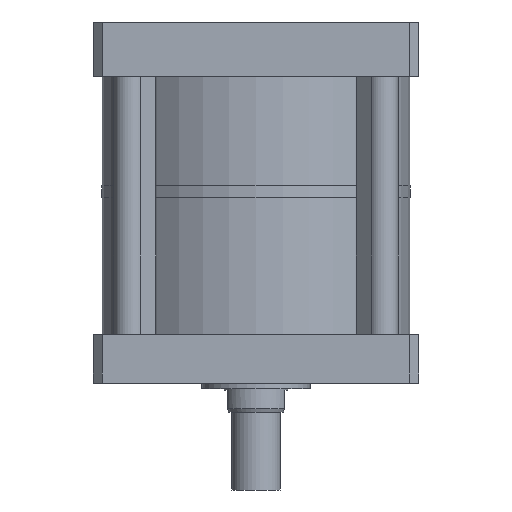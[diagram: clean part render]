
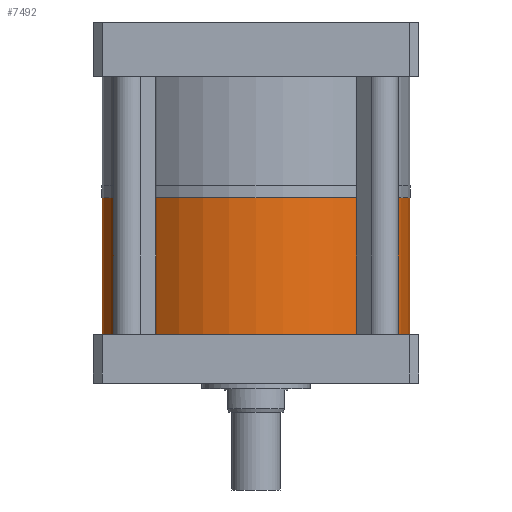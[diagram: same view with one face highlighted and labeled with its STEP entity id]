
A CAD part, front view. The second image highlights one B-rep face of the part: STEP entity #7492.
In plain terms, the highlighted cylindrical face has radius 85 mm (diameter 170 mm), a partial arc.
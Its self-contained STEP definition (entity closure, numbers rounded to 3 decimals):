
#516 = DIRECTION ( 'NONE',  ( 1., 0., 0. ) ) ;
#517 = AXIS2_PLACEMENT_3D ( 'NONE', #1032, #5900, #1719 ) ;
#740 = CYLINDRICAL_SURFACE ( 'NONE', #8388, 85. ) ;
#920 = ORIENTED_EDGE ( 'NONE', *, *, #7314, .T. ) ;
#1032 = CARTESIAN_POINT ( 'NONE',  ( 0., 0., -142.5 ) ) ;
#1164 = CARTESIAN_POINT ( 'NONE',  ( 85., 0., -67. ) ) ;
#1609 = ORIENTED_EDGE ( 'NONE', *, *, #6640, .F. ) ;
#1689 = VECTOR ( 'NONE', #6851, 1000. ) ;
#1719 = DIRECTION ( 'NONE',  ( -1., 0., 0. ) ) ;
#2585 = FACE_OUTER_BOUND ( 'NONE', #3929, .T. ) ;
#2687 = EDGE_CURVE ( 'NONE', #3857, #6035, #4368, .T. ) ;
#2775 = CARTESIAN_POINT ( 'NONE',  ( 85., 0., -142.5 ) ) ;
#3385 = CARTESIAN_POINT ( 'NONE',  ( 0., 0., -67. ) ) ;
#3857 = VERTEX_POINT ( 'NONE', #2775 ) ;
#3929 = EDGE_LOOP ( 'NONE', ( #5739, #1609, #7176, #920 ) ) ;
#4070 = DIRECTION ( 'NONE',  ( -1., 0., 0. ) ) ;
#4368 = LINE ( 'NONE', #7839, #8282 ) ;
#4770 = CARTESIAN_POINT ( 'NONE',  ( -85., 0., -142.5 ) ) ;
#5739 = ORIENTED_EDGE ( 'NONE', *, *, #7593, .F. ) ;
#5767 = VERTEX_POINT ( 'NONE', #6370 ) ;
#5900 = DIRECTION ( 'NONE',  ( 0., 0., -1. ) ) ;
#6035 = VERTEX_POINT ( 'NONE', #1164 ) ;
#6174 = CIRCLE ( 'NONE', #8664, 85. ) ;
#6370 = CARTESIAN_POINT ( 'NONE',  ( -85., 0., -67. ) ) ;
#6435 = CIRCLE ( 'NONE', #517, 85. ) ;
#6640 = EDGE_CURVE ( 'NONE', #3857, #8642, #6435, .T. ) ;
#6851 = DIRECTION ( 'NONE',  ( 0., 0., 1. ) ) ;
#7024 = CARTESIAN_POINT ( 'NONE',  ( -85., 0., -142.5 ) ) ;
#7176 = ORIENTED_EDGE ( 'NONE', *, *, #2687, .T. ) ;
#7314 = EDGE_CURVE ( 'NONE', #6035, #5767, #6174, .T. ) ;
#7463 = LINE ( 'NONE', #4770, #1689 ) ;
#7492 = ADVANCED_FACE ( 'NONE', ( #2585 ), #740, .T. ) ;
#7593 = EDGE_CURVE ( 'NONE', #8642, #5767, #7463, .T. ) ;
#7812 = DIRECTION ( 'NONE',  ( 0., 0., 1. ) ) ;
#7839 = CARTESIAN_POINT ( 'NONE',  ( 85., 0., -142.5 ) ) ;
#8248 = DIRECTION ( 'NONE',  ( 0., 0., -1. ) ) ;
#8282 = VECTOR ( 'NONE', #7812, 1000. ) ;
#8388 = AXIS2_PLACEMENT_3D ( 'NONE', #8815, #8849, #516 ) ;
#8642 = VERTEX_POINT ( 'NONE', #7024 ) ;
#8664 = AXIS2_PLACEMENT_3D ( 'NONE', #3385, #8248, #4070 ) ;
#8815 = CARTESIAN_POINT ( 'NONE',  ( 0., 0., -142.5 ) ) ;
#8849 = DIRECTION ( 'NONE',  ( 0., 0., 1. ) ) ;
